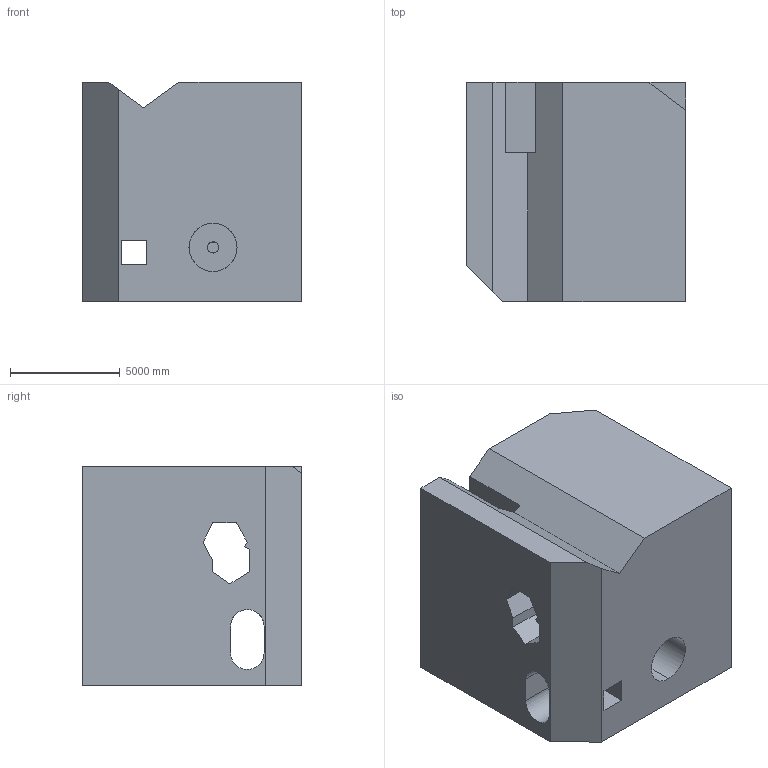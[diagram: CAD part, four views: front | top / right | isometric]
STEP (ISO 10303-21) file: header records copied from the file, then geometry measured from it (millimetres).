
FILE_DESCRIPTION (( 'STEP AP203' ), '1' );
FILE_NAME ('1851.STEP', '2022-08-26T13:29:52', ( 'user' ), ( '' ), 'SwSTEP 2.0', 'SolidWorks 2021', '' );
FILE_SCHEMA (( 'CONFIG_CONTROL_DESIGN' ));
Length unit declared in the file: centimetre
Products named in the file (1): 1851
Bounding box: 10000 x 10000 x 10000 mm (x, y, z)
Volume: 838297606050.1 mm3; surface area: 814037675.3 mm2
Topology: 1 solids, 1 shells, 50 faces, 150 edges, 100 vertices
Faces by surface type: plane 40, cylinder 10
Entity records: 2173 total; most frequent: CARTESIAN_POINT 721, ORIENTED_EDGE 300, DIRECTION 264, EDGE_CURVE 150, LINE 118, VECTOR 118, VERTEX_POINT 100, AXIS2_PLACEMENT_3D 73
